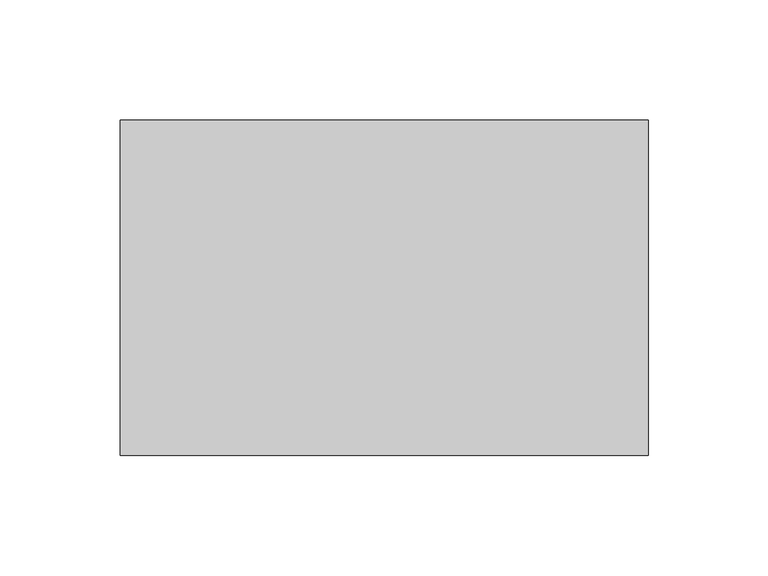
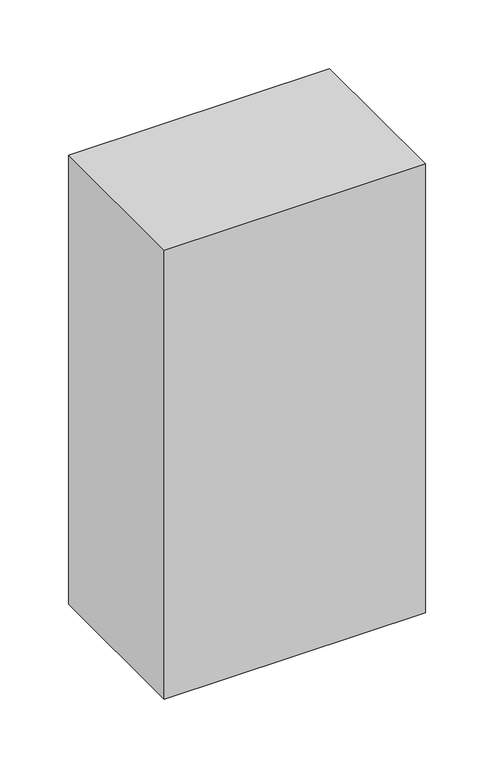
"""IFC4 building model written with IfcOpenShell, lengths in millimetres: proxy geometry."""

from ifc_helpers import new_model, si_unit, frame, origin, place, context, project, spatial, polyline, outline, extrude, source, transform, mapped, element, save


def structural_framing_5bd5179d(model_context):
    return source(origin(), model_context, "Body", "SweptSolid", [
        extrude(outline(polyline([(110.0, 70.0), (110.0, -70.0), (-110.0, -70.0), (-110.0, 70.0), (110.0, 70.0)])), frame((0.0, 0.0, -400.0), z_axis=(0.0, 0.0, 1.0), x_axis=(1.0, 0.0, 0.0)), (0.0, 0.0, 1.0), 400.0),
    ])


if __name__ == "__main__":
    model = new_model("IFC4")
    model_context = context("Model", 3, world=origin())
    ifc_project = project(units=[si_unit("LENGTHUNIT", "METRE", prefix="MILLI")], contexts=[model_context])
    site = spatial("IfcSite", under=ifc_project)
    building = spatial("IfcBuilding", under=site)
    placement = place(None, origin())
    structural_framing_shape = structural_framing_5bd5179d(model_context)
    element("IfcBuildingElementProxy", 1, Name="Structural Framing", at=placement, inside=building, context=model_context, shape_type="MappedRepresentation", body=[
        mapped(structural_framing_shape, transform((0.0, 0.0, 0.0), x_axis=(1.0, 0.0, 0.0), y_axis=(0.0, 1.0, 0.0), z_axis=(0.0, 0.0, 1.0))),
    ])
    save(model, "model.ifc")
